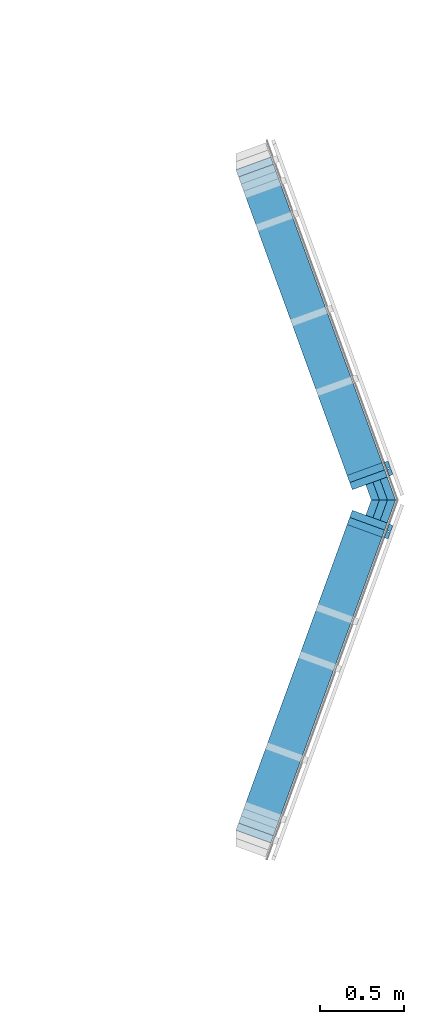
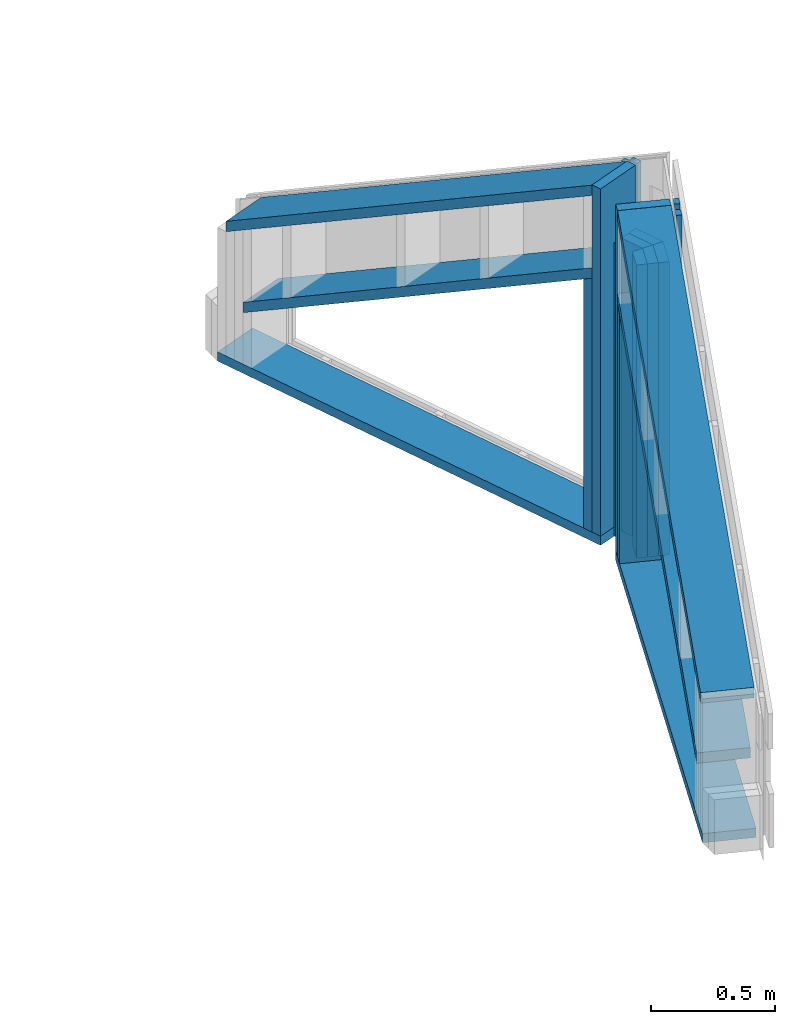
# One storey, part 14 of 24: 20 members.
"""IFC2X3 building model written with IfcOpenShell, lengths in metres."""

from ifc_helpers import new_model, si_unit, direction, frame, origin_with_axes, place, context, subcontext, project, spatial, faceted_brep, material, element, save


model = new_model("IFC2X3")

# Units and contexts
model_context = context("Model", 3, precision=1e-06, world=origin_with_axes(), true_north=direction((0.0, 1.0, 0.0)))
body_context = subcontext(model_context, "Body", "Model", "MODEL_VIEW")
ifc_project = project(units=[si_unit("LENGTHUNIT", "METRE"), si_unit("AREAUNIT", "SQUARE_METRE"), si_unit("VOLUMEUNIT", "CUBIC_METRE"), si_unit("PLANEANGLEUNIT", "RADIAN")], contexts=[model_context])

# Site, building, storey
site_placement = place(None, origin_with_axes())
site = spatial("IfcSite", under=ifc_project, at=site_placement, CompositionType="ELEMENT")
building_placement = place(site_placement, origin_with_axes())
building = spatial("IfcBuilding", under=site, at=building_placement, Name="Building 1", CompositionType="ELEMENT")
storey_placement = place(building_placement, origin_with_axes())
storey = spatial("IfcBuildingStorey", under=building, at=storey_placement, Name="Premier Etage", CompositionType="ELEMENT", Elevation=0.0)

# Members
ifc_material = material(Name="Epicéa C24")
member_1_placement = place(storey_placement, frame((18.3901191, 1.9718423, 4.0062632), z_axis=(0.9396926, 0.3420201, 0.0), x_axis=(0.0, 0.0, -1.0)))
element("IfcMember", 1, at=member_1_placement, inside=storey, material=ifc_material, Name="Montant", context=body_context, shape_type="Brep", body=[
    faceted_brep([(0.0244139, 0.0225, 0.11), (0.0244139, 0.0225, -0.11), (0.0, -0.0225, -0.11), (0.0, -0.0225, 0.11), (1.2512632, 0.0225, -0.11), (1.2512632, -0.0225, -0.11), (1.2512632, 0.0225, 0.11), (1.2512632, -0.0225, 0.11)], [[[0, 1, 2, 3]], [[2, 1, 4, 5]], [[1, 0, 6, 4]], [[5, 4, 6, 7]], [[3, 2, 5, 7]], [[0, 3, 7, 6]]]),
])
member_2_placement = place(storey_placement, frame((18.3901191, 1.6477174, 4.0062632), z_axis=(0.9396926, -0.3420201, 0.0), x_axis=(0.0, 0.0, -1.0)))
element("IfcMember", 2, at=member_2_placement, inside=storey, material=ifc_material, Name="Montant", context=body_context, shape_type="Brep", body=[
    faceted_brep([(0.0244139, -0.0225, -0.11), (0.0244139, -0.0225, 0.11), (0.0, 0.0225, 0.11), (0.0, 0.0225, -0.11), (1.2512632, -0.0225, 0.11), (1.2512632, 0.0225, 0.11), (1.2512632, -0.0225, -0.11), (1.2512632, 0.0225, -0.11)], [[[0, 1, 2, 3]], [[2, 1, 4, 5]], [[1, 0, 6, 4]], [[6, 7, 5, 4]], [[0, 3, 7, 6]], [[3, 2, 5, 7]]]),
])
member_3_placement = place(storey_placement, frame((18.4132055, 1.7111466, 2.7325), z_axis=(0.9396926, -0.3420201, 0.0), x_axis=(-0.3420201, -0.9396926, 0.0)))
element("IfcMember", 3, at=member_3_placement, inside=storey, material=ifc_material, Name="Montant", context=body_context, shape_type="Brep", body=[
    faceted_brep([(0.0, 0.0225, 0.11), (0.0, -0.0225, 0.11), (2.0189284, -0.0225, 0.11), (2.0189284, 0.0225, 0.11), (0.0, 0.0225, -0.11), (2.0189284, 0.0225, -0.11), (0.0, -0.0225, -0.11), (2.0189284, -0.0225, -0.11)], [[[0, 1, 2, 3]], [[4, 0, 3, 5]], [[6, 4, 5, 7]], [[1, 6, 7, 2]], [[4, 6, 1, 0]], [[2, 7, 5, 3]]]),
])
member_4_placement = place(storey_placement, frame((18.5169776, 2.018015, 4.4419696), z_axis=(0.9396926, 0.3420201, 0.0), x_axis=(0.0, 0.0, -1.0)))
element("IfcMember", 4, at=member_4_placement, inside=storey, material=ifc_material, Name="latte 27/40", context=body_context, shape_type="Brep", body=[
    faceted_brep([(1.7269696, 0.02, -0.012), (1.7269696, 0.02, 0.012), (1.7269696, -0.02, 0.012), (1.7269696, -0.02, -0.012), (0.0, 0.02, 0.012), (0.0, 0.02, -0.012), (0.0, -0.02, -0.012), (0.0, -0.02, 0.012)], [[[0, 1, 2, 3]], [[4, 5, 6, 7]], [[3, 6, 5, 0]], [[2, 7, 6, 3]], [[1, 4, 7, 2]], [[0, 5, 4, 1]]]),
])
member_5_placement = place(storey_placement, frame((18.4014843, 1.9406167, 4.4452503), z_axis=(-0.9396926, -0.3420201, 0.0), x_axis=(-0.3006266, 0.8259647, -0.476871)))
element("IfcMember", 5, at=member_5_placement, inside=storey, material=ifc_material, Name="Montant", context=body_context, shape_type="Brep", body=[
    faceted_brep([(0.0, -0.0225, -0.11), (0.0, -0.0225, 0.11), (0.0244139, 0.0225, 0.11), (0.0244139, 0.0225, -0.11), (2.1945246, -0.0225, 0.11), (2.2189386, 0.0225, 0.11), (2.1945246, -0.0225, -0.11), (2.2189386, 0.0225, -0.11)], [[[0, 1, 2, 3]], [[2, 1, 4, 5]], [[1, 0, 6, 4]], [[5, 4, 6, 7]], [[3, 2, 5, 7]], [[0, 3, 7, 6]]]),
])
member_6_placement = place(storey_placement, frame((18.5169776, 1.6015447, 4.4419696), z_axis=(0.9396926, -0.3420201, 0.0), x_axis=(0.0, 0.0, -1.0)))
element("IfcMember", 6, at=member_6_placement, inside=storey, material=ifc_material, Name="latte 27/40", context=body_context, shape_type="Brep", body=[
    faceted_brep([(1.7269696, 0.02, -0.012), (1.7269696, 0.02, 0.012), (1.7269696, -0.02, 0.012), (1.7269696, -0.02, -0.012), (0.0, 0.02, 0.012), (0.0, 0.02, -0.012), (0.0, -0.02, -0.012), (0.0, -0.02, 0.012)], [[[0, 1, 2, 3]], [[4, 5, 6, 7]], [[3, 6, 5, 0]], [[2, 7, 6, 3]], [[1, 4, 7, 2]], [[0, 5, 4, 1]]]),
])
member_7_placement = place(storey_placement, frame((18.4132055, 1.9084131, 2.7325), z_axis=(0.9396926, 0.3420201, 0.0), x_axis=(-0.3420201, 0.9396926, 0.0)))
element("IfcMember", 7, at=member_7_placement, inside=storey, material=ifc_material, Name="Montant", context=body_context, shape_type="Brep", body=[
    faceted_brep([(2.0189284, 0.0225, 0.11), (2.0189284, -0.0225, 0.11), (2.0189284, -0.0225, -0.11), (2.0189284, 0.0225, -0.11), (0.0, -0.0225, 0.11), (0.0, -0.0225, -0.11), (0.0, 0.0225, 0.11), (0.0, 0.0225, -0.11)], [[[0, 1, 2, 3]], [[2, 1, 4, 5]], [[1, 0, 6, 4]], [[5, 4, 6, 7]], [[3, 2, 5, 7]], [[0, 3, 7, 6]]]),
])
member_8_placement = place(storey_placement, frame((18.4014843, 1.678943, 4.0376824), z_axis=(0.9396926, -0.3420201, 0.0), x_axis=(-0.3006266, -0.8259647, -0.476871)))
element("IfcMember", 8, at=member_8_placement, inside=storey, material=ifc_material, Name="Montant", context=body_context, shape_type="Brep", body=[
    faceted_brep([(0.0244139, 0.0225, 0.11), (0.0244139, 0.0225, -0.11), (0.0, -0.0225, -0.11), (0.0, -0.0225, 0.11), (2.0921323, -0.0225, -0.11), (2.0921323, -0.0225, 0.11), (2.1165462, 0.0225, -0.11), (2.1165462, 0.0225, 0.11)], [[[0, 1, 2, 3]], [[3, 2, 4, 5]], [[2, 1, 6, 4]], [[5, 4, 6, 7]], [[1, 0, 7, 6]], [[0, 3, 5, 7]]]),
])
member_9_placement = place(storey_placement, frame((18.4300509, 1.7647385, 2.71), z_axis=(0.3420201, 0.9396926, 0.0), x_axis=(0.0, 0.0, 1.0)))
element("IfcMember", 9, at=member_9_placement, inside=storey, material=ifc_material, Name="Montant", context=body_context, shape_type="Brep", body=[
    faceted_brep([(1.4453223, -0.0225, -0.0561213), (1.4453223, -0.0225, 0.0397427), (0.0, -0.0225, 0.0397427), (0.0, -0.0225, -0.0561213), (1.4453223, 0.0225, -0.0561213), (0.0, 0.0225, -0.0561213), (1.4453223, 0.0225, 0.0561213), (0.0, 0.0225, 0.0561213)], [[[0, 1, 2, 3]], [[4, 0, 3, 5]], [[6, 4, 5, 7]], [[2, 7, 5, 3]], [[1, 6, 7, 2]], [[6, 1, 0, 4]]]),
])
member_10_placement = place(storey_placement, frame((18.4014843, 1.9406167, 4.0376824), z_axis=(0.9396926, 0.3420201, 0.0), x_axis=(-0.3006266, 0.8259647, -0.476871)))
element("IfcMember", 10, at=member_10_placement, inside=storey, material=ifc_material, Name="Montant", context=body_context, shape_type="Brep", body=[
    faceted_brep([(2.0921323, 0.0225, -0.11), (2.0921323, 0.0225, 0.11), (2.1165462, -0.0225, 0.11), (2.1165462, -0.0225, -0.11), (0.0244139, -0.0225, 0.11), (0.0244139, -0.0225, -0.11), (0.0, 0.0225, 0.11), (0.0, 0.0225, -0.11)], [[[0, 1, 2, 3]], [[3, 2, 4, 5]], [[2, 1, 6, 4]], [[5, 4, 6, 7]], [[1, 0, 7, 6]], [[0, 3, 5, 7]]]),
])
member_11_placement = place(storey_placement, frame((17.7344125, -0.1538219, 3.387103), z_axis=(-0.9396926, 0.3420201, 0.0), x_axis=(0.3006266, 0.8259647, 0.476871)))
element("IfcMember", 11, at=member_11_placement, inside=storey, material=ifc_material, Name="Montant", context=body_context, shape_type="Brep", body=[
    faceted_brep([(0.0, 0.0225, -0.11), (0.0, 0.0225, 0.11), (2.1945244, 0.0225, 0.11), (2.1945244, 0.0225, -0.11), (0.0244139, -0.0225, 0.11), (2.2189384, -0.0225, 0.11), (0.0244139, -0.0225, -0.11), (2.2189384, -0.0225, -0.11)], [[[0, 1, 2, 3]], [[1, 4, 5, 2]], [[4, 6, 7, 5]], [[6, 0, 3, 7]], [[0, 6, 4, 1]], [[5, 7, 3, 2]]]),
])
member_12_placement = place(storey_placement, frame((18.475138, 1.757043, 2.71), z_axis=(0.3420201, 0.9396926, 0.0), x_axis=(0.0, 0.0, 1.0)))
element("IfcMember", 12, at=member_12_placement, inside=storey, material=ifc_material, Name="Montant", context=body_context, shape_type="Brep", body=[
    faceted_brep([(1.4453223, -0.0225, -0.0643107), (1.4453223, -0.0225, 0.047932), (0.0, -0.0225, 0.047932), (0.0, -0.0225, -0.0643107), (1.4453223, 0.0225, -0.0643107), (0.0, 0.0225, -0.0643107), (1.4453223, 0.0225, 0.0643107), (0.0, 0.0225, 0.0643107)], [[[0, 1, 2, 3]], [[4, 0, 3, 5]], [[6, 4, 5, 7]], [[2, 7, 5, 3]], [[1, 6, 7, 2]], [[6, 1, 0, 4]]]),
])
member_13_placement = place(storey_placement, frame((18.5202251, 1.7493476, 2.71), z_axis=(0.3420201, 0.9396926, 0.0), x_axis=(0.0, 0.0, 1.0)))
element("IfcMember", 13, at=member_13_placement, inside=storey, material=ifc_material, Name="Montant", context=body_context, shape_type="Brep", body=[
    faceted_brep([(1.4453223, -0.0225, -0.0725), (1.4453223, -0.0225, 0.0561213), (0.0, -0.0225, 0.0561213), (0.0, -0.0225, -0.0725), (1.4453223, 0.0225, -0.0725), (0.0, 0.0225, -0.0725), (1.4453223, 0.0225, 0.0725), (0.0, 0.0225, 0.0725)], [[[0, 1, 2, 3]], [[4, 0, 3, 5]], [[6, 4, 5, 7]], [[2, 7, 5, 3]], [[1, 6, 7, 2]], [[6, 1, 0, 4]]]),
])
member_14_placement = place(storey_placement, frame((18.5202251, 1.8702121, 4.1553223), z_axis=(0.3420201, -0.9396926, 0.0), x_axis=(0.0, 0.0, -1.0)))
element("IfcMember", 14, at=member_14_placement, inside=storey, material=ifc_material, Name="Montant", context=body_context, shape_type="Brep", body=[
    faceted_brep([(0.0, -0.0225, 0.0561213), (0.0, 0.0225, 0.0725), (0.0, 0.0225, -0.0725), (0.0, -0.0225, -0.0725), (1.4453223, 0.0225, 0.0725), (1.4453223, 0.0225, -0.0725), (1.4453223, -0.0225, 0.0561213), (1.4453223, -0.0225, -0.0725)], [[[0, 1, 2, 3]], [[2, 1, 4, 5]], [[1, 0, 6, 4]], [[0, 3, 7, 6]], [[4, 6, 7, 5]], [[3, 2, 5, 7]]]),
])
member_15_placement = place(storey_placement, frame((18.5323685, 1.6438308, 4.4663835), z_axis=(0.9396926, -0.3420201, 0.0), x_axis=(0.0, 0.0, -1.0)))
element("IfcMember", 15, at=member_15_placement, inside=storey, material=ifc_material, Name="latte 27/40", context=body_context, shape_type="Brep", body=[
    faceted_brep([(1.7513835, 0.02, -0.012), (1.7513835, 0.02, 0.012), (1.7513835, -0.02, 0.012), (1.7513835, -0.02, -0.012), (0.0, 0.02, 0.012), (0.0, 0.02, -0.012), (0.0, -0.02, -0.012), (0.0, -0.02, 0.012)], [[[0, 1, 2, 3]], [[4, 5, 6, 7]], [[3, 6, 5, 0]], [[2, 7, 6, 3]], [[1, 4, 7, 2]], [[0, 5, 4, 1]]]),
])
member_16_placement = place(storey_placement, frame((18.40551, 1.6900035, 4.4650272), z_axis=(0.9396926, -0.3420201, 0.0), x_axis=(0.0, 0.0, -1.0)))
element("IfcMember", 16, at=member_16_placement, inside=storey, material=ifc_material, Name="Montant", context=body_context, shape_type="Brep", body=[
    faceted_brep([(0.0, -0.0225, 0.11), (0.0, 0.0225, 0.11), (0.0, 0.0225, -0.11), (0.0, -0.0225, -0.11), (1.7100272, 0.0225, 0.11), (1.7100272, 0.0225, -0.11), (1.7100272, -0.0225, 0.11), (1.7100272, -0.0225, -0.11)], [[[0, 1, 2, 3]], [[2, 1, 4, 5]], [[1, 0, 6, 4]], [[0, 3, 7, 6]], [[3, 2, 5, 7]], [[7, 5, 4, 6]]]),
])
member_17_placement = place(storey_placement, frame((18.5323685, 1.9757289, 4.4663836), z_axis=(0.9396926, 0.3420201, 0.0), x_axis=(0.0, 0.0, -1.0)))
element("IfcMember", 17, at=member_17_placement, inside=storey, material=ifc_material, Name="latte 27/40", context=body_context, shape_type="Brep", body=[
    faceted_brep([(1.7513835, 0.02, -0.012), (1.7513835, 0.02, 0.012), (1.7513835, -0.02, 0.012), (1.7513835, -0.02, -0.012), (0.0, 0.02, 0.012), (0.0, 0.02, -0.012), (0.0, -0.02, -0.012), (0.0, -0.02, 0.012)], [[[0, 1, 2, 3]], [[4, 5, 6, 7]], [[3, 6, 5, 0]], [[2, 7, 6, 3]], [[1, 4, 7, 2]], [[0, 5, 4, 1]]]),
])
member_18_placement = place(storey_placement, frame((18.475138, 1.8625167, 4.1553223), z_axis=(0.3420201, -0.9396926, 0.0), x_axis=(0.0, 0.0, -1.0)))
element("IfcMember", 18, at=member_18_placement, inside=storey, material=ifc_material, Name="Montant", context=body_context, shape_type="Brep", body=[
    faceted_brep([(0.0, -0.0225, 0.047932), (0.0, 0.0225, 0.0643107), (0.0, 0.0225, -0.0643107), (0.0, -0.0225, -0.0643107), (1.4453223, 0.0225, 0.0643107), (1.4453223, 0.0225, -0.0643107), (1.4453223, -0.0225, 0.047932), (1.4453223, -0.0225, -0.0643107)], [[[0, 1, 2, 3]], [[2, 1, 4, 5]], [[1, 0, 6, 4]], [[0, 3, 7, 6]], [[4, 6, 7, 5]], [[3, 2, 5, 7]]]),
])
member_19_placement = place(storey_placement, frame((18.40551, 1.9295561, 4.4663836), z_axis=(0.9396926, 0.3420201, 0.0), x_axis=(0.0, 0.0, -1.0)))
element("IfcMember", 19, at=member_19_placement, inside=storey, material=ifc_material, Name="Montant", context=body_context, shape_type="Brep", body=[
    faceted_brep([(0.0, 0.0225, -0.11), (0.0, -0.0225, -0.11), (0.0, -0.0225, 0.11), (0.0, 0.0225, 0.11), (1.7113836, -0.0225, -0.11), (1.7113836, -0.0225, 0.11), (1.7113836, 0.0225, -0.11), (1.7113836, 0.0225, 0.11)], [[[0, 1, 2, 3]], [[2, 1, 4, 5]], [[1, 0, 6, 4]], [[0, 3, 7, 6]], [[3, 2, 5, 7]], [[4, 6, 7, 5]]]),
])
member_20_placement = place(storey_placement, frame((18.4300509, 1.8548212, 4.1553223), z_axis=(0.3420201, -0.9396926, 0.0), x_axis=(0.0, 0.0, -1.0)))
element("IfcMember", 20, at=member_20_placement, inside=storey, material=ifc_material, Name="Montant", context=body_context, shape_type="Brep", body=[
    faceted_brep([(0.0, -0.0225, 0.0397427), (0.0, 0.0225, 0.0561213), (0.0, 0.0225, -0.0561213), (0.0, -0.0225, -0.0561213), (1.4453223, 0.0225, 0.0561213), (1.4453223, 0.0225, -0.0561213), (1.4453223, -0.0225, 0.0397427), (1.4453223, -0.0225, -0.0561213)], [[[0, 1, 2, 3]], [[2, 1, 4, 5]], [[1, 0, 6, 4]], [[0, 3, 7, 6]], [[4, 6, 7, 5]], [[3, 2, 5, 7]]]),
])

save(model, "model.ifc")
